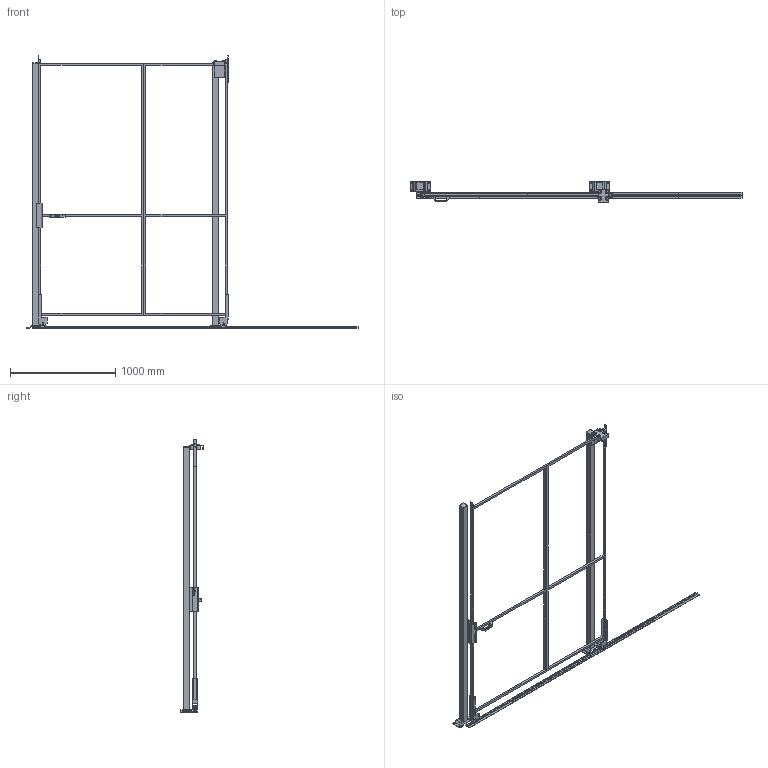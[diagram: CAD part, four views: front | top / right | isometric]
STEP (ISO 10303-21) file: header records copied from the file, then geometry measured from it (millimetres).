
FILE_DESCRIPTION(/* description */ (''),/* implementation_level */ '2;1');
FILE_NAME(/* name */ 'C:\SafeGuarding\ELABORATI\Drawing5_2025-05-13-10-27-21.stp',/* time_stamp */ '2025-05-13T10:27:22+02:00',/* author */ ('admin'),/* organization */ (''),/* preprocessor_version */ 'ST-DEVELOPER v18.1',/* originating_system */ 'AutoCAD Mechanical',/* authorisation */ '');
FILE_SCHEMA (('AUTOMOTIVE_DESIGN { 1 0 10303 214 3 1 1 }'));
Length unit declared in the file: millimetre
Products named in the file (4): Product; VFPA.REPE2010002400; VFPA.REPE2008002400; P_VFMA.V260SDU.2520
Assembly tree (4 placements, depth 2):
  Product
    VFPA.REPE2010002400
    VFPA.REPE2008002400
    P_VFMA.V260SDU.2520  x2
Bounding box: 3161.01 x 210.01 x 2590 mm (x, y, z)
Volume: 26288482.1 mm3; surface area: 3550644.1 mm2
Topology: 30 solids, 41 shells, 335 faces, 1137 edges, 1123 vertices
Faces by surface type: plane 289, cylinder 40, cone 4, sphere 2
Full cylindrical faces by diameter (mm): 9 x4, 11 x8, 13 x4, 18 x4, 30 x2, 36 x4, 58 x4
Entity records: 11581 total; most frequent: CARTESIAN_POINT 2545, DIRECTION 1749, ORIENTED_EDGE 1550, EDGE_CURVE 824, LINE 819, VECTOR 819, VERTEX_POINT 590, AXIS2_PLACEMENT_3D 465
